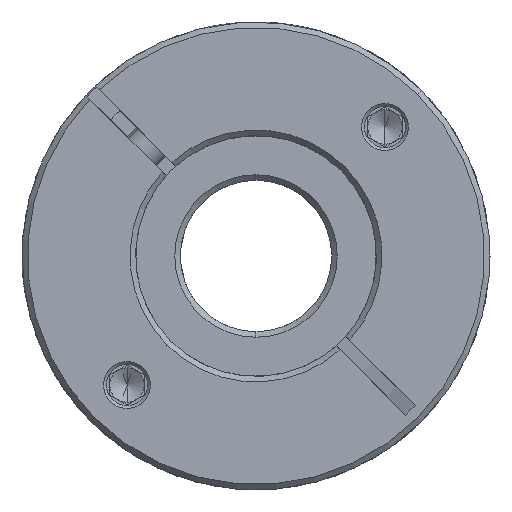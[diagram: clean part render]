
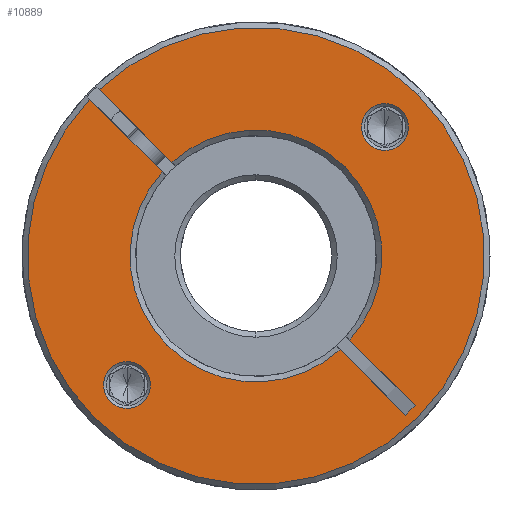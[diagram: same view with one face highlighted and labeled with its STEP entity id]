
A CAD part, front view. The second image highlights one B-rep face of the part: STEP entity #10889.
In plain terms, the highlighted planar face has unit normal (0, -1, 0).
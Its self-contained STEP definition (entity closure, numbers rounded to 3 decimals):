
#91 = CIRCLE ( 'NONE', #305, 18.3 ) ;
#129 = DIRECTION ( 'NONE',  ( 0.707, 0., 0.707 ) ) ;
#217 = VERTEX_POINT ( 'NONE', #13436 ) ;
#305 = AXIS2_PLACEMENT_3D ( 'NONE', #4343, #14137, #19283 ) ;
#309 = DIRECTION ( 'NONE',  ( 0.707, 0., 0.707 ) ) ;
#466 = VERTEX_POINT ( 'NONE', #7885 ) ;
#608 = EDGE_CURVE ( 'NONE', #2805, #16290, #10584, .T. ) ;
#689 = ORIENTED_EDGE ( 'NONE', *, *, #3027, .T. ) ;
#847 = CIRCLE ( 'NONE', #13175, 3.4 ) ;
#876 = AXIS2_PLACEMENT_3D ( 'NONE', #10372, #18317, #309 ) ;
#938 = ORIENTED_EDGE ( 'NONE', *, *, #608, .T. ) ;
#1053 = ORIENTED_EDGE ( 'NONE', *, *, #14395, .T. ) ;
#1253 = DIRECTION ( 'NONE',  ( 0.707, 0., 0.707 ) ) ;
#1463 = VECTOR ( 'NONE', #6934, 1000. ) ;
#1505 = CARTESIAN_POINT ( 'NONE',  ( -2.735, -67.045, 68. ) ) ;
#1536 = VECTOR ( 'NONE', #5525, 1000. ) ;
#2265 = CIRCLE ( 'NONE', #876, 33.2 ) ;
#2273 = AXIS2_PLACEMENT_3D ( 'NONE', #14221, #15892, #3549 ) ;
#2430 = VERTEX_POINT ( 'NONE', #16733 ) ;
#2431 = CARTESIAN_POINT ( 'NONE',  ( -21.473, -67.045, 49.262 ) ) ;
#2571 = ORIENTED_EDGE ( 'NONE', *, *, #18169, .T. ) ;
#2805 = VERTEX_POINT ( 'NONE', #6185 ) ;
#2918 = DIRECTION ( 'NONE',  ( 0., 1., 0. ) ) ;
#2986 = CIRCLE ( 'NONE', #21168, 18.3 ) ;
#3027 = EDGE_CURVE ( 'NONE', #5261, #11877, #16154, .T. ) ;
#3207 = LINE ( 'NONE', #10121, #18179 ) ;
#3293 = AXIS2_PLACEMENT_3D ( 'NONE', #6332, #9655, #17811 ) ;
#3479 = DIRECTION ( 'NONE',  ( 0.707, 0., 0.707 ) ) ;
#3502 = DIRECTION ( 'NONE',  ( 0.707, 0., -0.707 ) ) ;
#3503 = DIRECTION ( 'NONE',  ( 0.707, 0., -0.707 ) ) ;
#3549 = DIRECTION ( 'NONE',  ( 0.707, 0., 0.707 ) ) ;
#3613 = VERTEX_POINT ( 'NONE', #8959 ) ;
#3768 = EDGE_CURVE ( 'NONE', #16236, #3613, #16897, .T. ) ;
#3984 = EDGE_CURVE ( 'NONE', #6320, #5261, #3207, .T. ) ;
#4167 = FACE_BOUND ( 'NONE', #12418, .T. ) ;
#4343 = CARTESIAN_POINT ( 'NONE',  ( -2.735, -67.045, 68. ) ) ;
#4472 = CARTESIAN_POINT ( 'NONE',  ( 13.599, -67.045, 84.334 ) ) ;
#4581 = CARTESIAN_POINT ( 'NONE',  ( -2.735, -67.045, 68. ) ) ;
#5232 = AXIS2_PLACEMENT_3D ( 'NONE', #8236, #19788, #3479 ) ;
#5261 = VERTEX_POINT ( 'NONE', #17647 ) ;
#5492 = CARTESIAN_POINT ( 'NONE',  ( 18.988, -67.045, 44.862 ) ) ;
#5525 = DIRECTION ( 'NONE',  ( 0.707, 0., -0.707 ) ) ;
#6044 = VERTEX_POINT ( 'NONE', #17933 ) ;
#6061 = DIRECTION ( 'NONE',  ( 0.707, 0., 0.707 ) ) ;
#6068 = VECTOR ( 'NONE', #3503, 1000. ) ;
#6185 = CARTESIAN_POINT ( 'NONE',  ( 18.407, -67.045, 89.142 ) ) ;
#6191 = EDGE_CURVE ( 'NONE', #20846, #11877, #8980, .T. ) ;
#6259 = CARTESIAN_POINT ( 'NONE',  ( -2.028, -67.045, 68.707 ) ) ;
#6312 = CARTESIAN_POINT ( 'NONE',  ( 9.479, -67.045, 54.372 ) ) ;
#6320 = VERTEX_POINT ( 'NONE', #18986 ) ;
#6332 = CARTESIAN_POINT ( 'NONE',  ( -2.735, -67.045, 68. ) ) ;
#6545 = AXIS2_PLACEMENT_3D ( 'NONE', #4581, #2918, #1253 ) ;
#6719 = CARTESIAN_POINT ( 'NONE',  ( -3.442, -67.045, 67.293 ) ) ;
#6818 = CARTESIAN_POINT ( 'NONE',  ( -21.473, -67.045, 49.262 ) ) ;
#6863 = VERTEX_POINT ( 'NONE', #11829 ) ;
#6871 = EDGE_CURVE ( 'NONE', #217, #19084, #14849, .T. ) ;
#6934 = DIRECTION ( 'NONE',  ( 0.707, 0., -0.707 ) ) ;
#7064 = AXIS2_PLACEMENT_3D ( 'NONE', #2431, #12447, #7277 ) ;
#7111 = ORIENTED_EDGE ( 'NONE', *, *, #3984, .T. ) ;
#7277 = DIRECTION ( 'NONE',  ( 0.707, 0., 0.707 ) ) ;
#7703 = CARTESIAN_POINT ( 'NONE',  ( -23.878, -67.045, 46.858 ) ) ;
#7885 = CARTESIAN_POINT ( 'NONE',  ( -19.069, -67.045, 51.666 ) ) ;
#8151 = ORIENTED_EDGE ( 'NONE', *, *, #6871, .T. ) ;
#8194 = DIRECTION ( 'NONE',  ( 0., -1., 0. ) ) ;
#8236 = CARTESIAN_POINT ( 'NONE',  ( 16.003, -67.045, 86.738 ) ) ;
#8263 = CIRCLE ( 'NONE', #7064, 3.4 ) ;
#8305 = ORIENTED_EDGE ( 'NONE', *, *, #8420, .T. ) ;
#8420 = EDGE_CURVE ( 'NONE', #20846, #6044, #91, .T. ) ;
#8860 = CIRCLE ( 'NONE', #15744, 3.4 ) ;
#8959 = CARTESIAN_POINT ( 'NONE',  ( -26.211, -67.045, 44.524 ) ) ;
#8980 = LINE ( 'NONE', #6719, #1463 ) ;
#9109 = ORIENTED_EDGE ( 'NONE', *, *, #6191, .F. ) ;
#9607 = CARTESIAN_POINT ( 'NONE',  ( -26.908, -67.045, 90.758 ) ) ;
#9655 = DIRECTION ( 'NONE',  ( 0., -1., 0. ) ) ;
#9945 = ORIENTED_EDGE ( 'NONE', *, *, #13594, .T. ) ;
#10049 = EDGE_CURVE ( 'NONE', #19084, #6863, #13421, .T. ) ;
#10121 = CARTESIAN_POINT ( 'NONE',  ( -2.028, -67.045, 68.707 ) ) ;
#10273 = CARTESIAN_POINT ( 'NONE',  ( 18.988, -67.045, 44.862 ) ) ;
#10372 = CARTESIAN_POINT ( 'NONE',  ( -2.735, -67.045, 68. ) ) ;
#10481 = PLANE ( 'NONE',  #2273 ) ;
#10549 = ORIENTED_EDGE ( 'NONE', *, *, #16064, .T. ) ;
#10584 = CIRCLE ( 'NONE', #5232, 3.4 ) ;
#10889 = ADVANCED_FACE ( 'NONE', ( #11347, #4167, #19660 ), #10481, .T. ) ;
#11347 = FACE_BOUND ( 'NONE', #19824, .T. ) ;
#11829 = CARTESIAN_POINT ( 'NONE',  ( 10.205, -67.045, 80.94 ) ) ;
#11877 = VERTEX_POINT ( 'NONE', #10273 ) ;
#11953 = AXIS2_PLACEMENT_3D ( 'NONE', #1505, #8194, #14553 ) ;
#12418 = EDGE_LOOP ( 'NONE', ( #9945, #1053 ) ) ;
#12447 = DIRECTION ( 'NONE',  ( 0., 1., 0. ) ) ;
#12605 = CARTESIAN_POINT ( 'NONE',  ( 16.003, -67.045, 86.738 ) ) ;
#12692 = VERTEX_POINT ( 'NONE', #7703 ) ;
#12793 = EDGE_CURVE ( 'NONE', #3613, #2430, #18508, .T. ) ;
#13175 = AXIS2_PLACEMENT_3D ( 'NONE', #12605, #14274, #6061 ) ;
#13421 = CIRCLE ( 'NONE', #6545, 18.3 ) ;
#13436 = CARTESIAN_POINT ( 'NONE',  ( -25.493, -67.045, 92.172 ) ) ;
#13519 = CARTESIAN_POINT ( 'NONE',  ( -3.442, -67.045, 67.293 ) ) ;
#13594 = EDGE_CURVE ( 'NONE', #466, #12692, #8860, .T. ) ;
#13682 = ORIENTED_EDGE ( 'NONE', *, *, #3768, .T. ) ;
#13761 = ORIENTED_EDGE ( 'NONE', *, *, #15281, .F. ) ;
#14137 = DIRECTION ( 'NONE',  ( 0., 1., 0. ) ) ;
#14221 = CARTESIAN_POINT ( 'NONE',  ( -2.735, -67.045, 68. ) ) ;
#14274 = DIRECTION ( 'NONE',  ( 0., 1., 0. ) ) ;
#14395 = EDGE_CURVE ( 'NONE', #12692, #466, #8263, .T. ) ;
#14553 = DIRECTION ( 'NONE',  ( 0.707, 0., 0.707 ) ) ;
#14588 = VECTOR ( 'NONE', #15530, 1000. ) ;
#14849 = LINE ( 'NONE', #6259, #6068 ) ;
#15281 = EDGE_CURVE ( 'NONE', #16236, #6044, #20115, .T. ) ;
#15530 = DIRECTION ( 'NONE',  ( -0.707, 0., -0.707 ) ) ;
#15744 = AXIS2_PLACEMENT_3D ( 'NONE', #6818, #19948, #129 ) ;
#15892 = DIRECTION ( 'NONE',  ( 0., -1., 0. ) ) ;
#16064 = EDGE_CURVE ( 'NONE', #2430, #217, #2265, .T. ) ;
#16098 = ORIENTED_EDGE ( 'NONE', *, *, #21365, .T. ) ;
#16154 = LINE ( 'NONE', #5492, #14588 ) ;
#16236 = VERTEX_POINT ( 'NONE', #9607 ) ;
#16290 = VERTEX_POINT ( 'NONE', #4472 ) ;
#16500 = CARTESIAN_POINT ( 'NONE',  ( -14.949, -67.045, 81.628 ) ) ;
#16733 = CARTESIAN_POINT ( 'NONE',  ( 20.741, -67.045, 91.476 ) ) ;
#16897 = CIRCLE ( 'NONE', #3293, 33.2 ) ;
#16920 = DIRECTION ( 'NONE',  ( 0., 1., 0. ) ) ;
#17518 = ORIENTED_EDGE ( 'NONE', *, *, #12793, .T. ) ;
#17593 = EDGE_LOOP ( 'NONE', ( #13761, #13682, #17518, #10549, #8151, #20348, #2571, #7111, #689, #9109, #8305 ) ) ;
#17647 = CARTESIAN_POINT ( 'NONE',  ( 20.402, -67.045, 46.277 ) ) ;
#17811 = DIRECTION ( 'NONE',  ( 0.707, 0., 0.707 ) ) ;
#17933 = CARTESIAN_POINT ( 'NONE',  ( -16.363, -67.045, 80.214 ) ) ;
#18169 = EDGE_CURVE ( 'NONE', #6863, #6320, #2986, .T. ) ;
#18179 = VECTOR ( 'NONE', #3502, 1000. ) ;
#18317 = DIRECTION ( 'NONE',  ( 0., -1., 0. ) ) ;
#18508 = CIRCLE ( 'NONE', #11953, 33.2 ) ;
#18986 = CARTESIAN_POINT ( 'NONE',  ( 10.893, -67.045, 55.786 ) ) ;
#19084 = VERTEX_POINT ( 'NONE', #16500 ) ;
#19283 = DIRECTION ( 'NONE',  ( 0.707, 0., 0.707 ) ) ;
#19660 = FACE_OUTER_BOUND ( 'NONE', #17593, .T. ) ;
#19788 = DIRECTION ( 'NONE',  ( 0., 1., 0. ) ) ;
#19824 = EDGE_LOOP ( 'NONE', ( #938, #16098 ) ) ;
#19948 = DIRECTION ( 'NONE',  ( 0., 1., 0. ) ) ;
#20012 = CARTESIAN_POINT ( 'NONE',  ( -2.735, -67.045, 68. ) ) ;
#20115 = LINE ( 'NONE', #13519, #1536 ) ;
#20222 = DIRECTION ( 'NONE',  ( 0.707, 0., 0.707 ) ) ;
#20348 = ORIENTED_EDGE ( 'NONE', *, *, #10049, .T. ) ;
#20846 = VERTEX_POINT ( 'NONE', #6312 ) ;
#21168 = AXIS2_PLACEMENT_3D ( 'NONE', #20012, #16920, #20222 ) ;
#21365 = EDGE_CURVE ( 'NONE', #16290, #2805, #847, .T. ) ;
